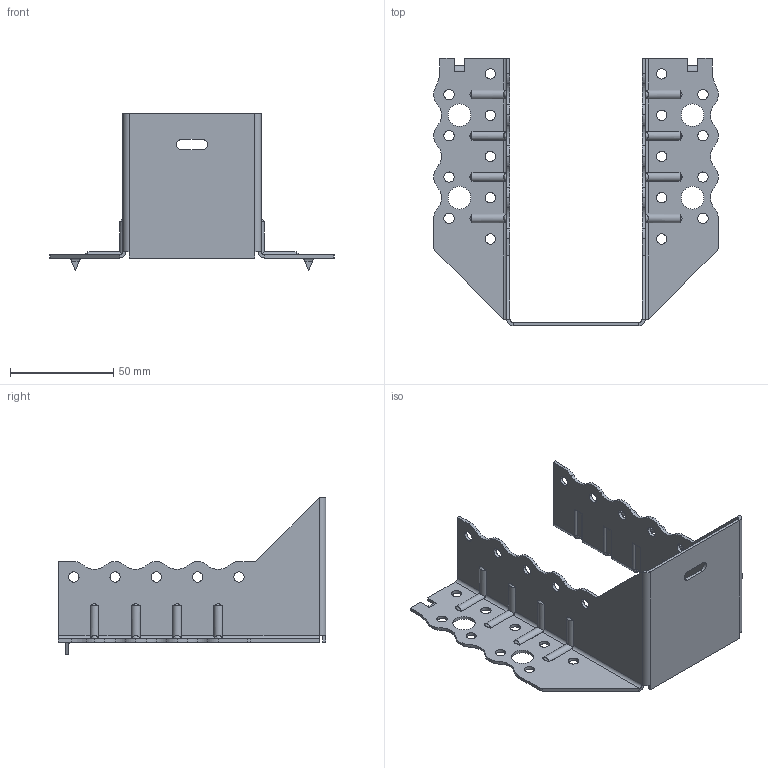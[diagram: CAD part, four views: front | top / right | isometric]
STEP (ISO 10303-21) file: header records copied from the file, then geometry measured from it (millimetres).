
FILE_DESCRIPTION (( 'STEP AP203' ), '1' );
FILE_NAME ('30610TOP.STEP', '2021-04-07T12:23:32', ( '' ), ( '' ), 'SwSTEP 2.0', 'SolidWorks 2013', '' );
FILE_SCHEMA (( 'CONFIG_CONTROL_DESIGN' ));
Length unit declared in the file: millimetre
Products named in the file (1): 30610TOP
Bounding box: 138 x 129.5 x 76 mm (x, y, z)
Volume: 32401 mm3; surface area: 46145 mm2
Topology: 1 solids, 1 shells, 359 faces, 963 edges, 606 vertices
Faces by surface type: cylinder 221, plane 106, torus 16, bspline 16
Entity records: 13198 total; most frequent: CARTESIAN_POINT 4091, ORIENTED_EDGE 1926, DIRECTION 1865, EDGE_CURVE 963, AXIS2_PLACEMENT_3D 678, VERTEX_POINT 606, VECTOR 509, LINE 509
